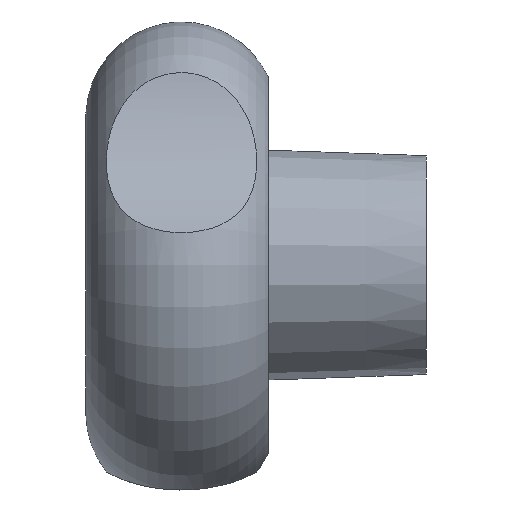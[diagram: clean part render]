
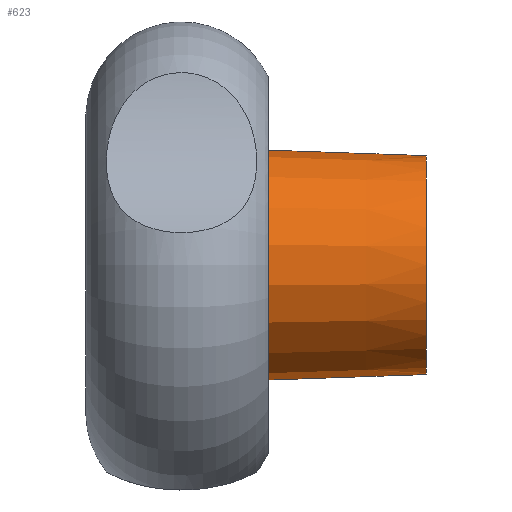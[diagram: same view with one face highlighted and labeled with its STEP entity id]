
A CAD part, left-side view. The second image highlights one B-rep face of the part: STEP entity #623.
In plain terms, the highlighted conical face has half-angle 2 degrees and reference radius 9.692 mm.
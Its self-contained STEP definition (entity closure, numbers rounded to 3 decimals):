
#13 = DIRECTION ( 'NONE',  ( 0., 0.999, -0.035 ) ) ;
#30 = CARTESIAN_POINT ( 'NONE',  ( 0., 19.82, 9.692 ) ) ;
#36 = EDGE_CURVE ( 'NONE', #493, #948, #525, .T. ) ;
#48 = ORIENTED_EDGE ( 'NONE', *, *, #324, .T. ) ;
#61 = CIRCLE ( 'NONE', #358, 9.692 ) ;
#155 = VECTOR ( 'NONE', #13, 1000. ) ;
#208 = CARTESIAN_POINT ( 'NONE',  ( 0., 0., 0. ) ) ;
#225 = VERTEX_POINT ( 'NONE', #543 ) ;
#247 = EDGE_CURVE ( 'NONE', #546, #225, #364, .T. ) ;
#324 = EDGE_CURVE ( 'NONE', #948, #225, #61, .T. ) ;
#358 = AXIS2_PLACEMENT_3D ( 'NONE', #811, #1033, #713 ) ;
#364 = LINE ( 'NONE', #655, #155 ) ;
#436 = DIRECTION ( 'NONE',  ( 0., 0., 1. ) ) ;
#439 = EDGE_CURVE ( 'NONE', #493, #546, #739, .T. ) ;
#493 = VERTEX_POINT ( 'NONE', #1363 ) ;
#518 = DIRECTION ( 'NONE',  ( 0., 0., -1. ) ) ;
#521 = ORIENTED_EDGE ( 'NONE', *, *, #439, .F. ) ;
#525 = LINE ( 'NONE', #750, #908 ) ;
#543 = CARTESIAN_POINT ( 'NONE',  ( 0., 19.82, -9.692 ) ) ;
#546 = VERTEX_POINT ( 'NONE', #749 ) ;
#623 = ADVANCED_FACE ( 'NONE', ( #893 ), #657, .T. ) ;
#655 = CARTESIAN_POINT ( 'NONE',  ( 0., 19.82, -9.692 ) ) ;
#657 = CONICAL_SURFACE ( 'NONE', #1152, 9.692, 0.035 ) ;
#713 = DIRECTION ( 'NONE',  ( 0., 0., -1. ) ) ;
#739 = CIRCLE ( 'NONE', #1139, 9. ) ;
#749 = CARTESIAN_POINT ( 'NONE',  ( 0., 0., -9. ) ) ;
#750 = CARTESIAN_POINT ( 'NONE',  ( 0., 19.82, 9.692 ) ) ;
#811 = CARTESIAN_POINT ( 'NONE',  ( 0., 19.82, 0. ) ) ;
#848 = DIRECTION ( 'NONE',  ( 0., -1., 0. ) ) ;
#863 = DIRECTION ( 'NONE',  ( 0., 1., 0. ) ) ;
#893 = FACE_OUTER_BOUND ( 'NONE', #1364, .T. ) ;
#908 = VECTOR ( 'NONE', #1078, 1000. ) ;
#948 = VERTEX_POINT ( 'NONE', #30 ) ;
#977 = ORIENTED_EDGE ( 'NONE', *, *, #36, .T. ) ;
#1033 = DIRECTION ( 'NONE',  ( 0., -1., 0. ) ) ;
#1078 = DIRECTION ( 'NONE',  ( 0., 0.999, 0.035 ) ) ;
#1139 = AXIS2_PLACEMENT_3D ( 'NONE', #208, #848, #518 ) ;
#1152 = AXIS2_PLACEMENT_3D ( 'NONE', #1279, #863, #436 ) ;
#1279 = CARTESIAN_POINT ( 'NONE',  ( 0., 19.82, 0. ) ) ;
#1363 = CARTESIAN_POINT ( 'NONE',  ( 0., 0., 9. ) ) ;
#1364 = EDGE_LOOP ( 'NONE', ( #1367, #521, #977, #48 ) ) ;
#1367 = ORIENTED_EDGE ( 'NONE', *, *, #247, .F. ) ;
